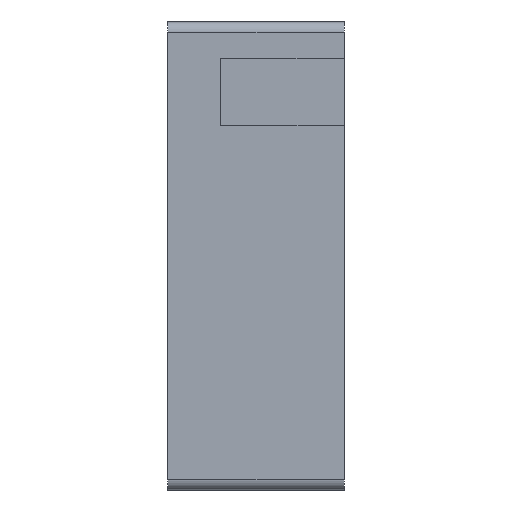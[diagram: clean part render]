
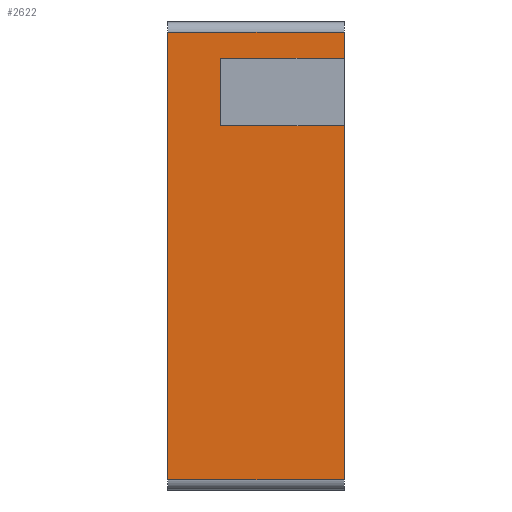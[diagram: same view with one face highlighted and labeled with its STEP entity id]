
A CAD part, left-side view. The second image highlights one B-rep face of the part: STEP entity #2622.
In plain terms, the highlighted planar face has unit normal (-1, 0, 0).
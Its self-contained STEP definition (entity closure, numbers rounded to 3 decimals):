
#156=PLANE('',#2782);
#282=FACE_OUTER_BOUND('',#425,.T.);
#425=EDGE_LOOP('',(#2399,#2400,#2401,#2402,#2403,#2404,#2405,#2406,#2407,
#2408));
#444=LINE('',#3435,#789);
#448=LINE('',#3450,#793);
#455=LINE('',#3463,#800);
#479=LINE('',#3517,#824);
#601=LINE('',#3771,#946);
#620=LINE('',#3807,#965);
#679=LINE('',#3915,#1024);
#682=LINE('',#3920,#1027);
#683=LINE('',#3922,#1028);
#785=LINE('',#4154,#1130);
#789=VECTOR('',#2796,10.);
#793=VECTOR('',#2808,10.);
#800=VECTOR('',#2815,10.);
#824=VECTOR('',#2855,10.);
#946=VECTOR('',#3059,10.);
#965=VECTOR('',#3082,10.);
#1024=VECTOR('',#3183,10.);
#1027=VECTOR('',#3188,10.);
#1028=VECTOR('',#3191,10.);
#1130=VECTOR('',#3415,10.);
#1153=VERTEX_POINT('',#3428);
#1156=VERTEX_POINT('',#3433);
#1162=VERTEX_POINT('',#3447);
#1163=VERTEX_POINT('',#3449);
#1169=VERTEX_POINT('',#3461);
#1191=VERTEX_POINT('',#3515);
#1282=VERTEX_POINT('',#3770);
#1297=VERTEX_POINT('',#3805);
#1325=VERTEX_POINT('',#3914);
#1326=VERTEX_POINT('',#3918);
#1399=EDGE_CURVE('',#1156,#1153,#444,.T.);
#1406=EDGE_CURVE('',#1162,#1163,#448,.T.);
#1413=EDGE_CURVE('',#1169,#1156,#455,.T.);
#1440=EDGE_CURVE('',#1191,#1162,#479,.T.);
#1562=EDGE_CURVE('',#1169,#1282,#601,.T.);
#1581=EDGE_CURVE('',#1282,#1297,#620,.T.);
#1640=EDGE_CURVE('',#1163,#1325,#679,.T.);
#1643=EDGE_CURVE('',#1297,#1326,#682,.T.);
#1644=EDGE_CURVE('',#1325,#1326,#683,.T.);
#1758=EDGE_CURVE('',#1191,#1153,#785,.T.);
#2399=ORIENTED_EDGE('',*,*,#1399,.F.);
#2400=ORIENTED_EDGE('',*,*,#1413,.F.);
#2401=ORIENTED_EDGE('',*,*,#1562,.T.);
#2402=ORIENTED_EDGE('',*,*,#1581,.T.);
#2403=ORIENTED_EDGE('',*,*,#1643,.T.);
#2404=ORIENTED_EDGE('',*,*,#1644,.F.);
#2405=ORIENTED_EDGE('',*,*,#1640,.F.);
#2406=ORIENTED_EDGE('',*,*,#1406,.F.);
#2407=ORIENTED_EDGE('',*,*,#1440,.F.);
#2408=ORIENTED_EDGE('',*,*,#1758,.T.);
#2622=ADVANCED_FACE('',(#282),#156,.F.);
#2782=AXIS2_PLACEMENT_3D('',#4153,#3413,#3414);
#2796=DIRECTION('',(0.,1.,0.));
#2808=DIRECTION('',(0.,0.,-1.));
#2815=DIRECTION('',(0.,0.,-1.));
#2855=DIRECTION('',(0.,-1.,0.));
#3059=DIRECTION('',(0.,1.,0.));
#3082=DIRECTION('',(0.,0.,1.));
#3183=DIRECTION('',(0.,-1.,0.));
#3188=DIRECTION('',(0.,-1.,0.));
#3191=DIRECTION('',(0.,0.,-1.));
#3413=DIRECTION('center_axis',(1.,0.,0.));
#3414=DIRECTION('ref_axis',(0.,0.,-1.));
#3415=DIRECTION('',(0.,0.,-1.));
#3428=CARTESIAN_POINT('',(0.,22.2,2.4));
#3433=CARTESIAN_POINT('',(0.,5.2,2.4));
#3435=CARTESIAN_POINT('',(0.,13.7,2.4));
#3447=CARTESIAN_POINT('',(0.,5.2,45.5));
#3449=CARTESIAN_POINT('',(0.,5.2,44.5));
#3450=CARTESIAN_POINT('',(0.,5.2,24.));
#3461=CARTESIAN_POINT('',(0.,5.2,36.5));
#3463=CARTESIAN_POINT('',(0.,5.2,24.));
#3515=CARTESIAN_POINT('',(0.,22.2,45.5));
#3517=CARTESIAN_POINT('',(0.,13.7,45.5));
#3770=CARTESIAN_POINT('',(0.,17.105,36.5));
#3771=CARTESIAN_POINT('',(0.,14.902,36.5));
#3805=CARTESIAN_POINT('',(0.,17.105,43.));
#3807=CARTESIAN_POINT('',(0.,17.105,30.75));
#3914=CARTESIAN_POINT('',(0.,5.2,44.5));
#3915=CARTESIAN_POINT('',(0.,16.105,44.5));
#3918=CARTESIAN_POINT('',(0.,5.2,43.));
#3920=CARTESIAN_POINT('',(0.,16.105,43.));
#3922=CARTESIAN_POINT('',(0.,5.2,44.5));
#4153=CARTESIAN_POINT('Origin',(0.,13.7,24.));
#4154=CARTESIAN_POINT('',(0.,22.2,24.));
